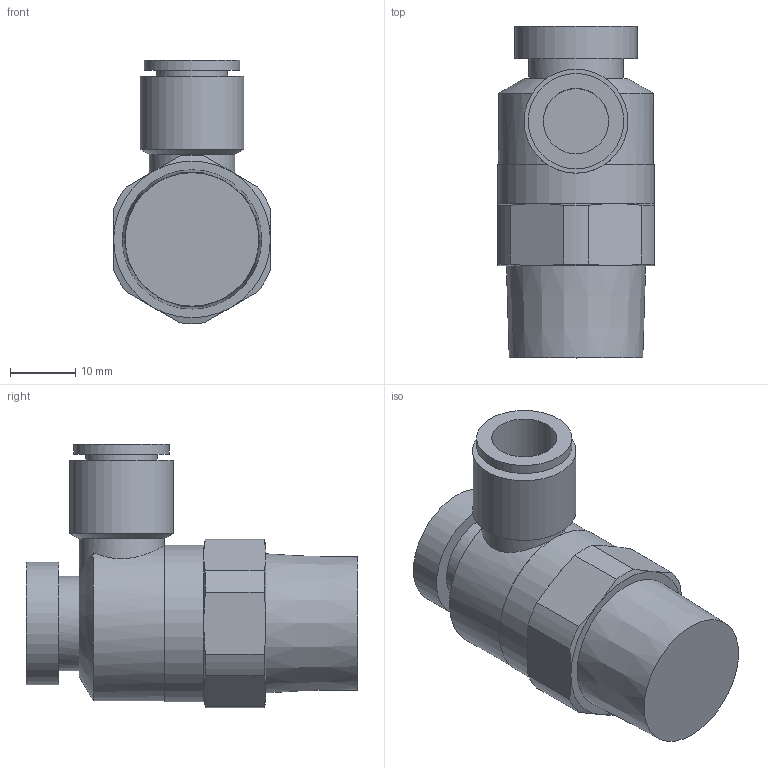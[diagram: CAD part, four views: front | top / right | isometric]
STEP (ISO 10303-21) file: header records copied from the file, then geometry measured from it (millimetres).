
FILE_DESCRIPTION(/* description */ ('STEP AP214'),/* implementation_level */ '2;1');
FILE_NAME(/* name */ 'AS4201F-04-10SA',/* time_stamp */ '2024-10-24T14:12:00+02:00',/* author */ ('License CC BY-ND 4.0'),/* organization */ ('CADENAS'),/* preprocessor_version */ 'ST-DEVELOPER v19.3',/* originating_system */ 'PARTsolutions',/* authorisation */ ' ');
FILE_SCHEMA (('AUTOMOTIVE_DESIGN {1 0 10303 214 3 1 1}'));
Length unit declared in the file: millimetre
Products named in the file (1): AS4201F-04-10SA
Bounding box: 24 x 50.8 x 40.28 mm (x, y, z)
Volume: 21308.9 mm3; surface area: 6107.8 mm2
Topology: 1 solids, 1 shells, 46 faces, 99 edges, 61 vertices
Faces by surface type: plane 16, cylinder 15, cone 15
Full cylindrical faces by diameter (mm): 10 x1, 10.9 x1, 13.1 x1, 14.45 x1, 14.6 x1, 15.9 x1, 18.8 x1, 23.75 x1, 24 x1
Entity records: 1239 total; most frequent: CARTESIAN_POINT 291, DIRECTION 194, ORIENTED_EDGE 170, AXIS2_PLACEMENT_3D 90, EDGE_CURVE 85, EDGE_LOOP 63, FACE_BOUND 63, VERTEX_POINT 58
